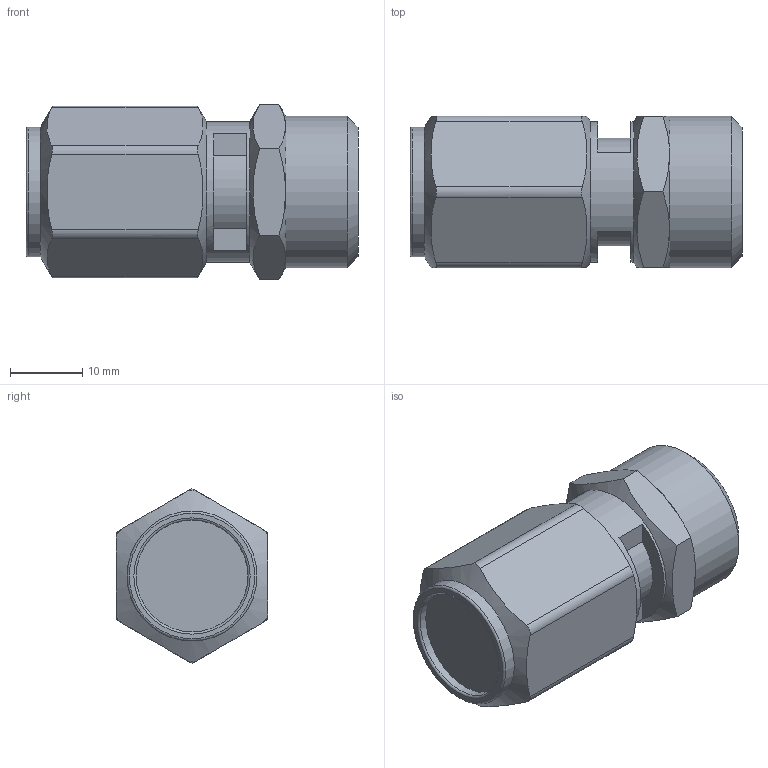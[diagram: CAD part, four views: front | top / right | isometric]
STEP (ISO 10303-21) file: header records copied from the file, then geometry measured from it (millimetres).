
FILE_DESCRIPTION(/* description */ (''),/* implementation_level */ '2;1');
FILE_NAME(/* name */ 'S:\_Tecnico\ArchivioUT\_Disegni3D ingombri\DISEGNI 3D per ingombri\RV\RV101212.stp',/* time_stamp */ '2020-10-30T13:51:44+01:00',/* author */ ('UfficioTecnico'),/* organization */ (''),/* preprocessor_version */ 'ST-DEVELOPER v18',/* originating_system */ 'Autodesk Inventor 2020',/* authorisation */ '');
FILE_SCHEMA (('AUTOMOTIVE_DESIGN { 1 0 10303 214 3 1 1 }'));
Length unit declared in the file: millimetre
Products named in the file (1): RV101212
Bounding box: 46 x 21 x 24.25 mm (x, y, z)
Volume: 14436.4 mm3; surface area: 4499.4 mm2
Topology: 1 solids, 1 shells, 45 faces, 126 edges, 86 vertices
Faces by surface type: plane 24, cylinder 13, cone 6, torus 2
Full cylindrical faces by diameter (mm): 10 x1, 15.5 x1, 18 x1, 19.5 x1, 20.955 x1
Entity records: 1569 total; most frequent: CARTESIAN_POINT 416, ORIENTED_EDGE 252, DIRECTION 222, EDGE_CURVE 126, AXIS2_PLACEMENT_3D 88, VERTEX_POINT 86, EDGE_LOOP 48, LINE 46
